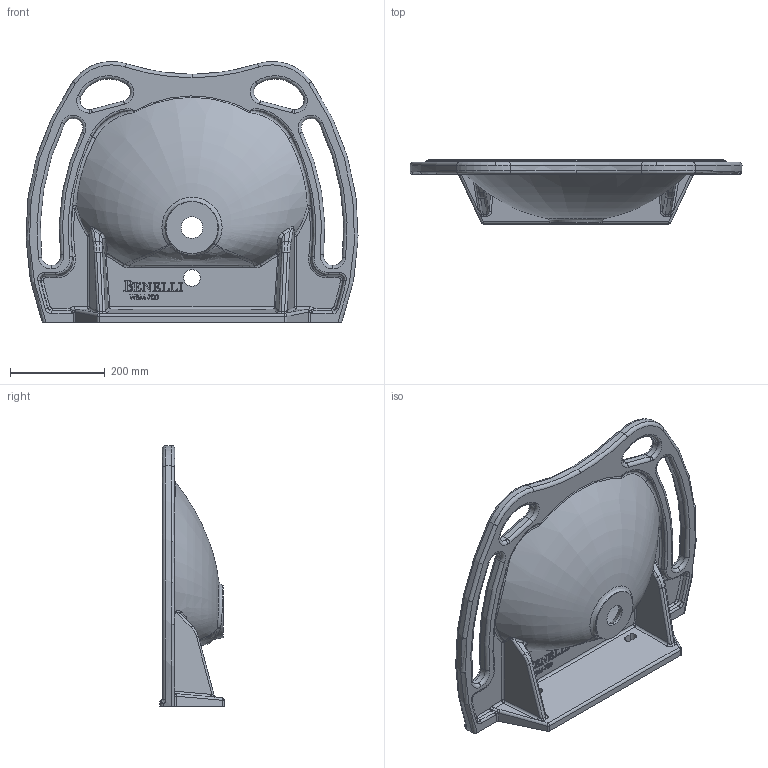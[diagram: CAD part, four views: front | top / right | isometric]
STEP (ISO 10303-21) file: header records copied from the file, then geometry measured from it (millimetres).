
FILE_DESCRIPTION (( 'STEP AP214' ), '1' );
FILE_NAME ('10.Benelli-Care-Resin-Washbasin_WBM-700.STEP', '2020-05-26T22:22:38', ( '' ), ( '' ), 'SwSTEP 2.0', 'SolidWorks 2020', '' );
FILE_SCHEMA (( 'AUTOMOTIVE_DESIGN' ));
Length unit declared in the file: millimetre
Products named in the file (1): 10.Benelli-Care-Resin-Washbasin_WBM-700
Bounding box: 699.81 x 135 x 550 mm (x, y, z)
Volume: 7167783.1 mm3; surface area: 938886.4 mm2
Topology: 1 solids, 1 shells, 1059 faces, 2942 edges, 1894 vertices
Faces by surface type: cylinder 669, plane 174, bspline 137, torus 63, cone 12, sphere 4
Entity records: 68900 total; most frequent: CARTESIAN_POINT 41576, DIRECTION 5977, ORIENTED_EDGE 5860, EDGE_CURVE 2930, AXIS2_PLACEMENT_3D 2424, VERTEX_POINT 1894, CIRCLE 1501, LINE 1129
